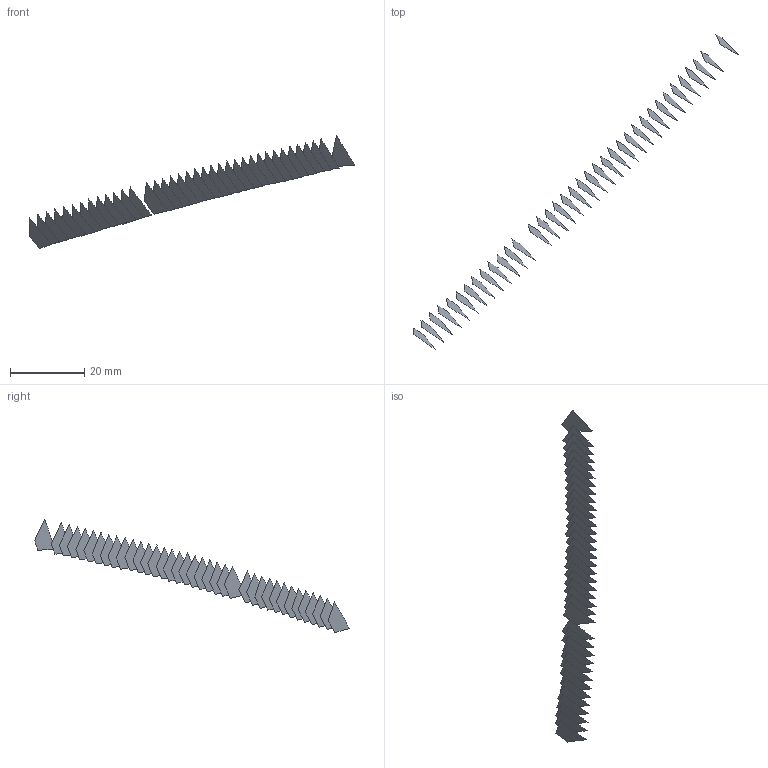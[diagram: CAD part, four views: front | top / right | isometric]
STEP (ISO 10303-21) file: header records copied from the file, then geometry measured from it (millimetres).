
FILE_DESCRIPTION(('FreeCAD Model'),'2;1');
FILE_NAME('Open CASCADE Shape Model','2022-05-22T07:50:32',('FreeCAD'),( 'FreeCAD'),'Open CASCADE STEP processor 7.5','FreeCAD','Unknown');
FILE_SCHEMA(('AUTOMOTIVE_DESIGN { 1 0 10303 214 1 1 1 1 }'));
Length unit declared in the file: millimetre
Products named in the file (38): Open CASCADE STEP translator 7.5 1; Open CASCADE STEP translator 7.5 1.1; Open CASCADE STEP translator 7.5 1.2; Open CASCADE STEP translator 7.5 1.3; Open CASCADE STEP translator 7.5 1.4; Open CASCADE STEP translator 7.5 1.5; Open CASCADE STEP translator 7.5 1.6; Open CASCADE STEP translator 7.5 1.7; Open CASCADE STEP translator 7.5 1.8; Open CASCADE STEP translator 7.5 1.9; Open CASCADE STEP translator 7.5 1.10; Open CASCADE STEP translator 7.5 1.11; Open CASCADE STEP translator 7.5 1.12; Open CASCADE STEP translator 7.5 1.13; Open CASCADE STEP translator 7.5 1.14; Open CASCADE STEP translator 7.5 1.15; Open CASCADE STEP translator 7.5 1.16; Open CASCADE STEP translator 7.5 1.17; Open CASCADE STEP translator 7.5 1.18; Open CASCADE STEP translator 7.5 1.19; Open CASCADE STEP translator 7.5 1.20; Open CASCADE STEP translator 7.5 1.21; Open CASCADE STEP translator 7.5 1.22; Open CASCADE STEP translator 7.5 1.23; Open CASCADE STEP translator 7.5 1.24; Open CASCADE STEP translator 7.5 1.25; Open CASCADE STEP translator 7.5 1.26; Open CASCADE STEP translator 7.5 1.27; Open CASCADE STEP translator 7.5 1.28; Open CASCADE STEP translator 7.5 1.29; Open CASCADE STEP translator 7.5 1.30; Open CASCADE STEP translator 7.5 1.31; Open CASCADE STEP translator 7.5 1.32; Open CASCADE STEP translator 7.5 1.33; Open CASCADE STEP translator 7.5 1.34; Open CASCADE STEP translator 7.5 1.35; Open CASCADE STEP translator 7.5 1.36; Open CASCADE STEP translator 7.5 1.37
Assembly tree (37 placements, depth 2):
  Open CASCADE STEP translator 7.5 1
    Open CASCADE STEP translator 7.5 1.1
    Open CASCADE STEP translator 7.5 1.2
    Open CASCADE STEP translator 7.5 1.3
    Open CASCADE STEP translator 7.5 1.4
    Open CASCADE STEP translator 7.5 1.5
    Open CASCADE STEP translator 7.5 1.6
    Open CASCADE STEP translator 7.5 1.7
    Open CASCADE STEP translator 7.5 1.8
    Open CASCADE STEP translator 7.5 1.9
    Open CASCADE STEP translator 7.5 1.10
    Open CASCADE STEP translator 7.5 1.11
    Open CASCADE STEP translator 7.5 1.12
    Open CASCADE STEP translator 7.5 1.13
    Open CASCADE STEP translator 7.5 1.14
    Open CASCADE STEP translator 7.5 1.15
    Open CASCADE STEP translator 7.5 1.16
    Open CASCADE STEP translator 7.5 1.17
    Open CASCADE STEP translator 7.5 1.18
    Open CASCADE STEP translator 7.5 1.19
    Open CASCADE STEP translator 7.5 1.20
    Open CASCADE STEP translator 7.5 1.21
    Open CASCADE STEP translator 7.5 1.22
    Open CASCADE STEP translator 7.5 1.23
    Open CASCADE STEP translator 7.5 1.24
    Open CASCADE STEP translator 7.5 1.25
    Open CASCADE STEP translator 7.5 1.26
    Open CASCADE STEP translator 7.5 1.27
    Open CASCADE STEP translator 7.5 1.28
    Open CASCADE STEP translator 7.5 1.29
    Open CASCADE STEP translator 7.5 1.30
    Open CASCADE STEP translator 7.5 1.31
    Open CASCADE STEP translator 7.5 1.32
    Open CASCADE STEP translator 7.5 1.33
    Open CASCADE STEP translator 7.5 1.34
    Open CASCADE STEP translator 7.5 1.35
    Open CASCADE STEP translator 7.5 1.36
    Open CASCADE STEP translator 7.5 1.37
Bounding box: 87.48 x 84.69 x 30.45 mm (x, y, z)
Surface area: 1325.2 mm2 (no closed solid volume)
Topology: 0 solids, 37 shells, 37 faces, 785 edges, 785 vertices
Faces by surface type: bspline 37
Entity records: 11257 total; most frequent: CARTESIAN_POINT 4111, B_SPLINE_CURVE_WITH_KNOTS 1570, ORIENTED_EDGE 785, EDGE_CURVE 785, VERTEX_POINT 785, SURFACE_CURVE 785, PCURVE 785, DEFINITIONAL_REPRESENTATION 785
